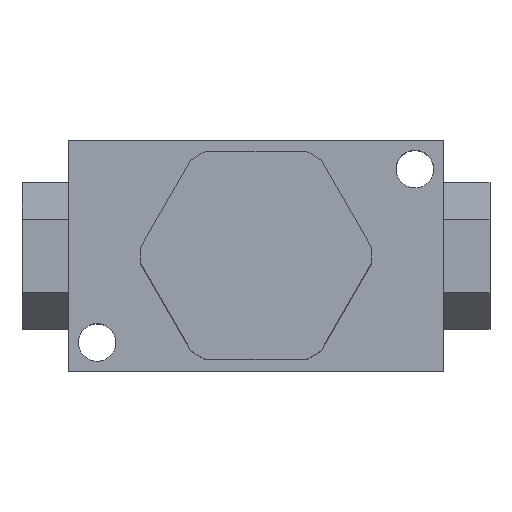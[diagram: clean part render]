
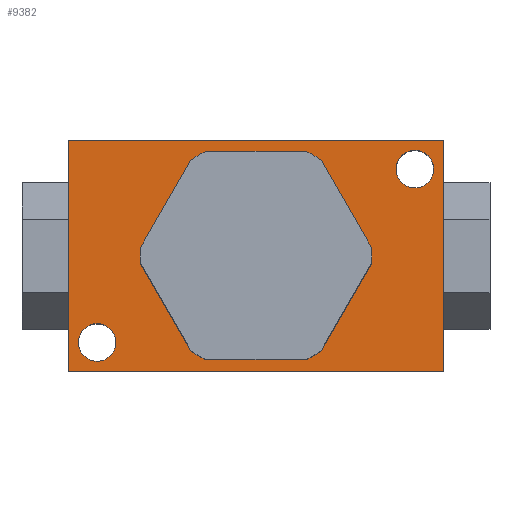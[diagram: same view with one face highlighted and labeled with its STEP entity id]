
A CAD part, top view. The second image highlights one B-rep face of the part: STEP entity #9382.
In plain terms, the highlighted planar face has unit normal (0, 0, 1).
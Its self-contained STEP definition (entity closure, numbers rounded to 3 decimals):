
#81=CARTESIAN_POINT('',(-27.5,-18.25,20.));
#82=VERTEX_POINT('',#81);
#91=CARTESIAN_POINT('',(-27.5,-11.75,20.));
#92=VERTEX_POINT('',#91);
#93=CARTESIAN_POINT('',(-27.5,-15.0,20.));
#94=DIRECTION('',(0.0,0.0,-1.0));
#95=DIRECTION('',(0.0,-1.0,0.0));
#96=AXIS2_PLACEMENT_3D('',#93,#94,#95);
#97=CIRCLE('',#96,3.25);
#98=EDGE_CURVE('',#92,#82,#97,.T.);
#123=CARTESIAN_POINT('',(27.5,11.75,20.));
#124=VERTEX_POINT('',#123);
#133=CARTESIAN_POINT('',(27.5,18.25,20.));
#134=VERTEX_POINT('',#133);
#135=CARTESIAN_POINT('',(27.5,15.0,20.));
#136=DIRECTION('',(0.0,0.0,-1.0));
#137=DIRECTION('',(0.0,-1.0,0.0));
#138=AXIS2_PLACEMENT_3D('',#135,#136,#137);
#139=CIRCLE('',#138,3.25);
#140=EDGE_CURVE('',#134,#124,#139,.T.);
#8300=CARTESIAN_POINT('',(27.5,15.0,20.));
#8301=DIRECTION('',(0.0,0.0,-1.0));
#8302=DIRECTION('',(0.0,-1.0,0.0));
#8303=AXIS2_PLACEMENT_3D('',#8300,#8301,#8302);
#8304=CIRCLE('',#8303,3.25);
#8305=EDGE_CURVE('',#124,#134,#8304,.T.);
#8324=CARTESIAN_POINT('',(-27.5,-15.0,20.));
#8325=DIRECTION('',(0.0,0.0,-1.0));
#8326=DIRECTION('',(0.0,-1.0,0.0));
#8327=AXIS2_PLACEMENT_3D('',#8324,#8325,#8326);
#8328=CIRCLE('',#8327,3.25);
#8329=EDGE_CURVE('',#82,#92,#8328,.T.);
#8554=CARTESIAN_POINT('',(-11.23,-16.55,20.0));
#8555=VERTEX_POINT('',#8554);
#8562=CARTESIAN_POINT('',(-8.718,-18.0,20.0));
#8563=VERTEX_POINT('',#8562);
#8564=CARTESIAN_POINT('',(0.0,0.0,20.));
#8565=DIRECTION('',(0.0,0.0,-1.0));
#8566=DIRECTION('',(1.0,0.0,0.0));
#8567=AXIS2_PLACEMENT_3D('',#8564,#8565,#8566);
#8568=CIRCLE('',#8567,20.0);
#8569=EDGE_CURVE('',#8563,#8555,#8568,.T.);
#8593=CARTESIAN_POINT('',(-19.947,-1.45,20.0));
#8594=VERTEX_POINT('',#8593);
#8601=CARTESIAN_POINT('',(-11.23,-16.55,20.0));
#8602=DIRECTION('',(-0.5,0.866,0.0));
#8603=VECTOR('',#8602,17.436);
#8604=LINE('',#8601,#8603);
#8605=EDGE_CURVE('',#8555,#8594,#8604,.T.);
#8625=CARTESIAN_POINT('',(-19.947,1.45,20.0));
#8626=VERTEX_POINT('',#8625);
#8633=CARTESIAN_POINT('',(0.0,0.0,20.));
#8634=DIRECTION('',(0.0,0.0,-1.0));
#8635=DIRECTION('',(1.0,0.0,0.0));
#8636=AXIS2_PLACEMENT_3D('',#8633,#8634,#8635);
#8637=CIRCLE('',#8636,20.0);
#8638=EDGE_CURVE('',#8594,#8626,#8637,.T.);
#8657=CARTESIAN_POINT('',(-11.23,16.55,20.0));
#8658=VERTEX_POINT('',#8657);
#8665=CARTESIAN_POINT('',(-19.947,1.45,20.0));
#8666=DIRECTION('',(0.5,0.866,0.0));
#8667=VECTOR('',#8666,17.436);
#8668=LINE('',#8665,#8667);
#8669=EDGE_CURVE('',#8626,#8658,#8668,.T.);
#8689=CARTESIAN_POINT('',(-8.718,18.0,20.0));
#8690=VERTEX_POINT('',#8689);
#8697=CARTESIAN_POINT('',(0.0,0.0,20.));
#8698=DIRECTION('',(0.0,0.0,-1.0));
#8699=DIRECTION('',(1.0,0.0,0.0));
#8700=AXIS2_PLACEMENT_3D('',#8697,#8698,#8699);
#8701=CIRCLE('',#8700,20.0);
#8702=EDGE_CURVE('',#8658,#8690,#8701,.T.);
#8721=CARTESIAN_POINT('',(8.718,18.,20.0));
#8722=VERTEX_POINT('',#8721);
#8729=CARTESIAN_POINT('',(-8.718,18.0,20.0));
#8730=DIRECTION('',(1.0,0.0,0.0));
#8731=VECTOR('',#8730,17.436);
#8732=LINE('',#8729,#8731);
#8733=EDGE_CURVE('',#8690,#8722,#8732,.T.);
#8753=CARTESIAN_POINT('',(11.23,16.55,20.0));
#8754=VERTEX_POINT('',#8753);
#8761=CARTESIAN_POINT('',(0.0,0.0,20.));
#8762=DIRECTION('',(0.0,0.0,-1.0));
#8763=DIRECTION('',(1.0,0.0,0.0));
#8764=AXIS2_PLACEMENT_3D('',#8761,#8762,#8763);
#8765=CIRCLE('',#8764,20.0);
#8766=EDGE_CURVE('',#8722,#8754,#8765,.T.);
#8785=CARTESIAN_POINT('',(19.947,1.45,20.0));
#8786=VERTEX_POINT('',#8785);
#8793=CARTESIAN_POINT('',(11.23,16.55,20.0));
#8794=DIRECTION('',(0.5,-0.866,0.0));
#8795=VECTOR('',#8794,17.436);
#8796=LINE('',#8793,#8795);
#8797=EDGE_CURVE('',#8754,#8786,#8796,.T.);
#8817=CARTESIAN_POINT('',(19.947,-1.45,20.0));
#8818=VERTEX_POINT('',#8817);
#8825=CARTESIAN_POINT('',(0.0,0.0,20.));
#8826=DIRECTION('',(0.0,0.0,-1.0));
#8827=DIRECTION('',(1.0,0.0,0.0));
#8828=AXIS2_PLACEMENT_3D('',#8825,#8826,#8827);
#8829=CIRCLE('',#8828,20.0);
#8830=EDGE_CURVE('',#8786,#8818,#8829,.T.);
#8849=CARTESIAN_POINT('',(11.23,-16.55,20.0));
#8850=VERTEX_POINT('',#8849);
#8857=CARTESIAN_POINT('',(19.947,-1.45,20.0));
#8858=DIRECTION('',(-0.5,-0.866,0.0));
#8859=VECTOR('',#8858,17.436);
#8860=LINE('',#8857,#8859);
#8861=EDGE_CURVE('',#8818,#8850,#8860,.T.);
#8881=CARTESIAN_POINT('',(8.718,-18.,20.0));
#8882=VERTEX_POINT('',#8881);
#8889=CARTESIAN_POINT('',(0.0,0.0,20.));
#8890=DIRECTION('',(0.0,0.0,-1.0));
#8891=DIRECTION('',(1.0,0.0,0.0));
#8892=AXIS2_PLACEMENT_3D('',#8889,#8890,#8891);
#8893=CIRCLE('',#8892,20.0);
#8894=EDGE_CURVE('',#8850,#8882,#8893,.T.);
#8912=CARTESIAN_POINT('',(8.718,-18.,20.0));
#8913=DIRECTION('',(-1.0,0.0,0.0));
#8914=VECTOR('',#8913,17.436);
#8915=LINE('',#8912,#8914);
#8916=EDGE_CURVE('',#8882,#8563,#8915,.T.);
#8957=CARTESIAN_POINT('',(32.5,-20.0,20.0));
#8958=VERTEX_POINT('',#8957);
#8965=CARTESIAN_POINT('',(-32.5,-20.0,20.0));
#8966=VERTEX_POINT('',#8965);
#8967=CARTESIAN_POINT('',(32.5,-20.0,20.0));
#8968=DIRECTION('',(-1.0,0.0,0.0));
#8969=VECTOR('',#8968,65.0);
#8970=LINE('',#8967,#8969);
#8971=EDGE_CURVE('',#8958,#8966,#8970,.T.);
#9200=CARTESIAN_POINT('',(32.5,20.,20.0));
#9201=VERTEX_POINT('',#9200);
#9208=CARTESIAN_POINT('',(32.5,20.,20.0));
#9209=DIRECTION('',(0.0,-1.0,0.0));
#9210=VECTOR('',#9209,40.);
#9211=LINE('',#9208,#9210);
#9212=EDGE_CURVE('',#9201,#8958,#9211,.T.);
#9239=CARTESIAN_POINT('',(-32.5,20.0,20.0));
#9240=VERTEX_POINT('',#9239);
#9247=CARTESIAN_POINT('',(-32.5,20.0,20.0));
#9248=DIRECTION('',(1.0,0.0,0.0));
#9249=VECTOR('',#9248,65.);
#9250=LINE('',#9247,#9249);
#9251=EDGE_CURVE('',#9240,#9201,#9250,.T.);
#9269=CARTESIAN_POINT('',(-32.5,-20.0,20.0));
#9270=DIRECTION('',(0.0,1.0,0.0));
#9271=VECTOR('',#9270,40.0);
#9272=LINE('',#9269,#9271);
#9273=EDGE_CURVE('',#8966,#9240,#9272,.T.);
#9349=CARTESIAN_POINT('',(0.,0.,20.));
#9350=DIRECTION('',(0.0,0.0,1.0));
#9351=DIRECTION('',(1.0,0.0,0.0));
#9352=AXIS2_PLACEMENT_3D('',#9349,#9350,#9351);
#9353=PLANE('',#9352);
#9354=ORIENTED_EDGE('',*,*,#9273,.F.);
#9355=ORIENTED_EDGE('',*,*,#8971,.F.);
#9356=ORIENTED_EDGE('',*,*,#9212,.F.);
#9357=ORIENTED_EDGE('',*,*,#9251,.F.);
#9358=EDGE_LOOP('',(#9354,#9355,#9356,#9357));
#9359=FACE_OUTER_BOUND('',#9358,.T.);
#9360=ORIENTED_EDGE('',*,*,#8305,.T.);
#9361=ORIENTED_EDGE('',*,*,#140,.T.);
#9362=EDGE_LOOP('',(#9360,#9361));
#9363=FACE_BOUND('',#9362,.T.);
#9364=ORIENTED_EDGE('',*,*,#8329,.T.);
#9365=ORIENTED_EDGE('',*,*,#98,.T.);
#9366=EDGE_LOOP('',(#9364,#9365));
#9367=FACE_BOUND('',#9366,.T.);
#9368=ORIENTED_EDGE('',*,*,#8569,.T.);
#9369=ORIENTED_EDGE('',*,*,#8605,.T.);
#9370=ORIENTED_EDGE('',*,*,#8638,.T.);
#9371=ORIENTED_EDGE('',*,*,#8669,.T.);
#9372=ORIENTED_EDGE('',*,*,#8702,.T.);
#9373=ORIENTED_EDGE('',*,*,#8733,.T.);
#9374=ORIENTED_EDGE('',*,*,#8766,.T.);
#9375=ORIENTED_EDGE('',*,*,#8797,.T.);
#9376=ORIENTED_EDGE('',*,*,#8830,.T.);
#9377=ORIENTED_EDGE('',*,*,#8861,.T.);
#9378=ORIENTED_EDGE('',*,*,#8894,.T.);
#9379=ORIENTED_EDGE('',*,*,#8916,.T.);
#9380=EDGE_LOOP('',(#9368,#9369,#9370,#9371,#9372,#9373,#9374,#9375,#9376,#9377,#9378,#9379));
#9381=FACE_BOUND('',#9380,.T.);
#9382=ADVANCED_FACE('',(#9359,#9363,#9367,#9381),#9353,.T.);
